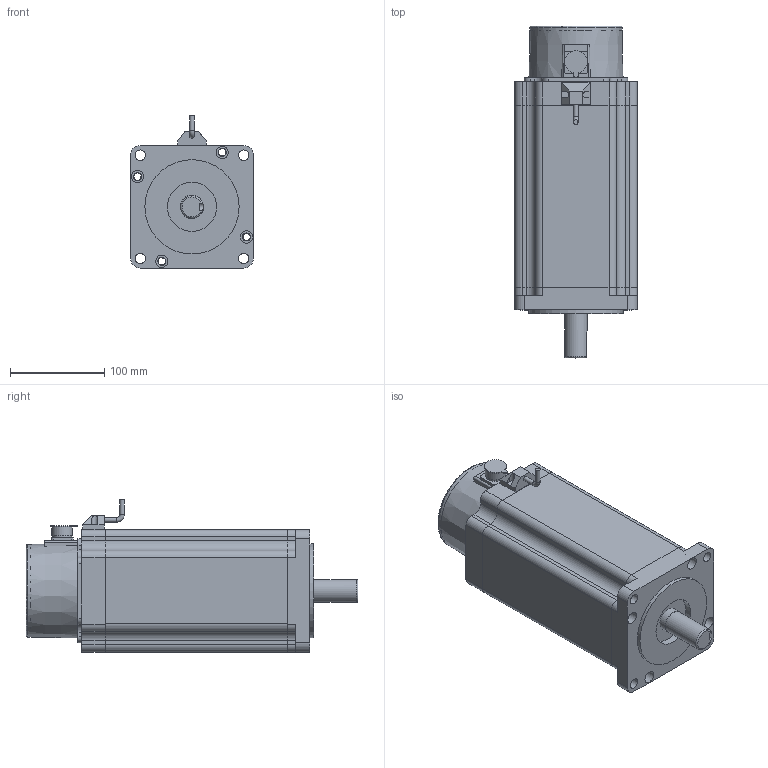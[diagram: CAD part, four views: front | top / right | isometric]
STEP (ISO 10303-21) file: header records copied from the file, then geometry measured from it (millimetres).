
FILE_DESCRIPTION(/* description */ (''),/* implementation_level */ '2;1');
FILE_NAME(/* name */ '130BYG350D.stp',/* time_stamp */ '2024-08-16T15:51:14+08:00',/* author */ (''),/* organization */ (''),/* preprocessor_version */ 'ST-DEVELOPER v18.1',/* originating_system */ 'SIEMENS PLM Software NX 2000',/* authorisation */ '');
FILE_SCHEMA (('AUTOMOTIVE_DESIGN { 1 0 10303 214 3 1 1 1 }'));
Length unit declared in the file: millimetre
Products named in the file (1): 925032A4A3696v2h
Bounding box: 130 x 352 x 161.44 mm (x, y, z)
Volume: 3656600.2 mm3; surface area: 329203.4 mm2
Topology: 9 solids, 9 shells, 414 faces, 1174 edges, 791 vertices
Faces by surface type: plane 301, cylinder 107, torus 4, cone 2
Full cylindrical faces by diameter (mm): 3 x4, 4.8 x2, 6.5 x4, 7 x1, 8 x4, 8.5 x12, 11 x4, 13 x4, 16.5 x1, 20.196 x2, 22.032 x1, 24 x1, 24.7 x1, 25 x1, 52 x1, 100 x1
Entity records: 13510 total; most frequent: CARTESIAN_POINT 2572, ORIENTED_EDGE 2176, DIRECTION 2125, EDGE_CURVE 1088, LINE 863, VECTOR 863, VERTEX_POINT 754, EDGE_LOOP 632
